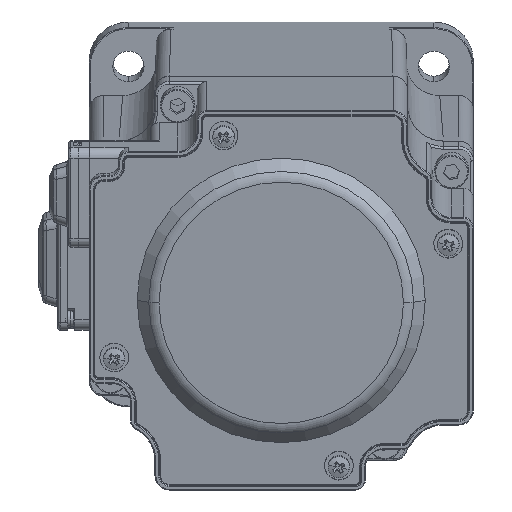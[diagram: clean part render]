
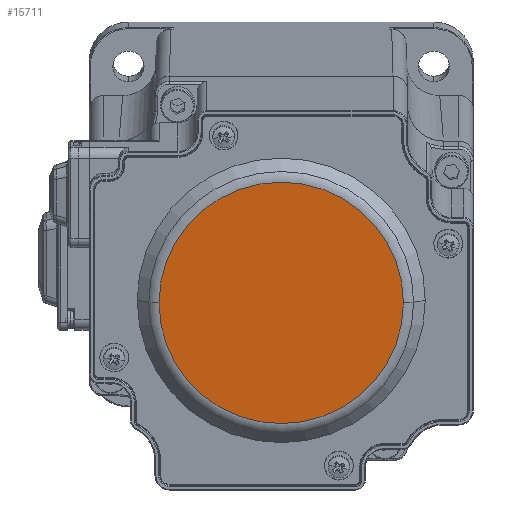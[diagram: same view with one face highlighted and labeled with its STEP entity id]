
A CAD part, left-side view. The second image highlights one B-rep face of the part: STEP entity #15711.
In plain terms, the highlighted planar face has unit normal (-0.988, 0, -0.157).
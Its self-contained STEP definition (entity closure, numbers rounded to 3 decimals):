
#118 = ORIENTED_EDGE ( 'NONE', *, *, #16189, .T. ) ;
#2625 = CARTESIAN_POINT ( 'NONE',  ( -1493.645, 0., 1316.795 ) ) ;
#5012 = CARTESIAN_POINT ( 'NONE',  ( -1493.645, 25.457, 1316.795 ) ) ;
#5346 = EDGE_LOOP ( 'NONE', ( #118, #38462 ) ) ;
#5394 = DIRECTION ( 'NONE',  ( 0.988, 0., 0.157 ) ) ;
#7814 = EDGE_CURVE ( 'NONE', #35103, #22773, #43370, .T. ) ;
#8548 = FACE_OUTER_BOUND ( 'NONE', #5346, .T. ) ;
#9136 = AXIS2_PLACEMENT_3D ( 'NONE', #2625, #27244, #37343 ) ;
#12191 = DIRECTION ( 'NONE',  ( 0., 1., 0. ) ) ;
#12618 = PLANE ( 'NONE',  #33448 ) ;
#15711 = ADVANCED_FACE ( 'NONE', ( #8548 ), #12618, .F. ) ;
#16189 = EDGE_CURVE ( 'NONE', #22773, #35103, #16351, .T. ) ;
#16351 = CIRCLE ( 'NONE', #9136, 25.457 ) ;
#18169 = DIRECTION ( 'NONE',  ( 0., 1., 0. ) ) ;
#19537 = CARTESIAN_POINT ( 'NONE',  ( -1493.645, 0., 1316.795 ) ) ;
#22773 = VERTEX_POINT ( 'NONE', #5012 ) ;
#25490 = AXIS2_PLACEMENT_3D ( 'NONE', #31616, #35613, #18169 ) ;
#27244 = DIRECTION ( 'NONE',  ( -0.988, 0., -0.157 ) ) ;
#31616 = CARTESIAN_POINT ( 'NONE',  ( -1493.645, 0., 1316.795 ) ) ;
#33448 = AXIS2_PLACEMENT_3D ( 'NONE', #19537, #5394, #12191 ) ;
#35103 = VERTEX_POINT ( 'NONE', #40307 ) ;
#35613 = DIRECTION ( 'NONE',  ( -0.988, 0., -0.157 ) ) ;
#37343 = DIRECTION ( 'NONE',  ( 0., 1., 0. ) ) ;
#38462 = ORIENTED_EDGE ( 'NONE', *, *, #7814, .T. ) ;
#40307 = CARTESIAN_POINT ( 'NONE',  ( -1493.645, -25.457, 1316.795 ) ) ;
#43370 = CIRCLE ( 'NONE', #25490, 25.457 ) ;
